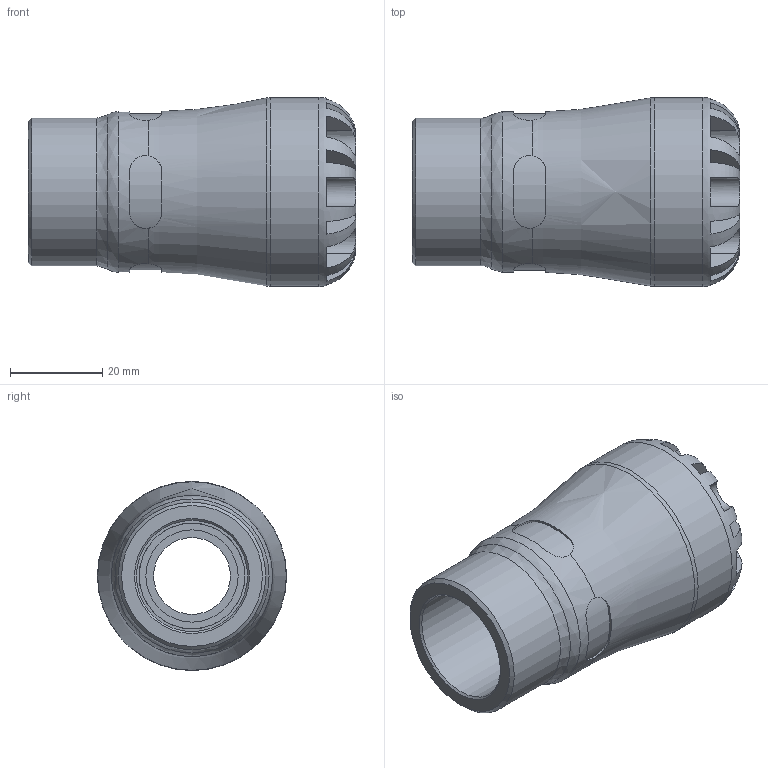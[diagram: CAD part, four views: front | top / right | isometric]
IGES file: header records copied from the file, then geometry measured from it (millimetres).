
Global section: file name: 100300020007_190300020007.ipt; native system: Autodesk Inventor 2015; preprocessor: unknown; author: KIM; date: 20170122.094936; units: millimetre
Bounding box: 71 x 41 x 41 mm (x, y, z)
Volume: 46113.1 mm3; surface area: 15299 mm2
Topology: 1 solids, 1 shells, 106 faces, 282 edges, 182 vertices
Faces by surface type: plane 62, revolution 28, cylinder 15, cone 1
Full cylindrical faces by diameter (mm): 31.98 x1, 34.85 x1, 41 x1
